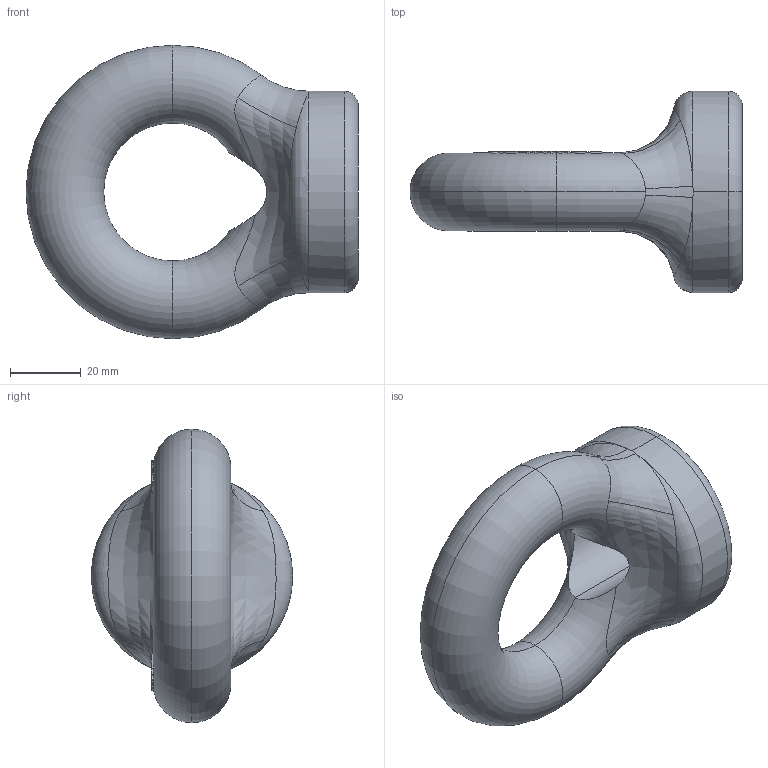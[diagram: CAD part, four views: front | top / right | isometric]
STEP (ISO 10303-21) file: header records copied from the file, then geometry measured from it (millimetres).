
FILE_DESCRIPTION (( 'STEP AP203' ), '1' );
FILE_NAME ('ENB1000.STEP', '2010-02-10T08:16:57', ( 'User' ), ( 'Home' ), 'SwSTEP 2.0', 'SolidWorks 2003240', '' );
FILE_SCHEMA (( 'CONFIG_CONTROL_DESIGN' ));
Length unit declared in the file: millimetre
Products named in the file (1): ENB1000
Bounding box: 93.89 x 57 x 83 mm (x, y, z)
Volume: 109078.2 mm3; surface area: 19810.9 mm2
Topology: 1 solids, 1 shells, 225 faces, 604 edges, 398 vertices
Faces by surface type: plane 131, bspline 56, torus 32, cylinder 4, cone 2
Entity records: 24952 total; most frequent: CARTESIAN_POINT 20141, ORIENTED_EDGE 1208, EDGE_CURVE 604, DIRECTION 588, VERTEX_POINT 398, B_SPLINE_CURVE_WITH_KNOTS 388, EDGE_LOOP 246, ADVANCED_FACE 225
